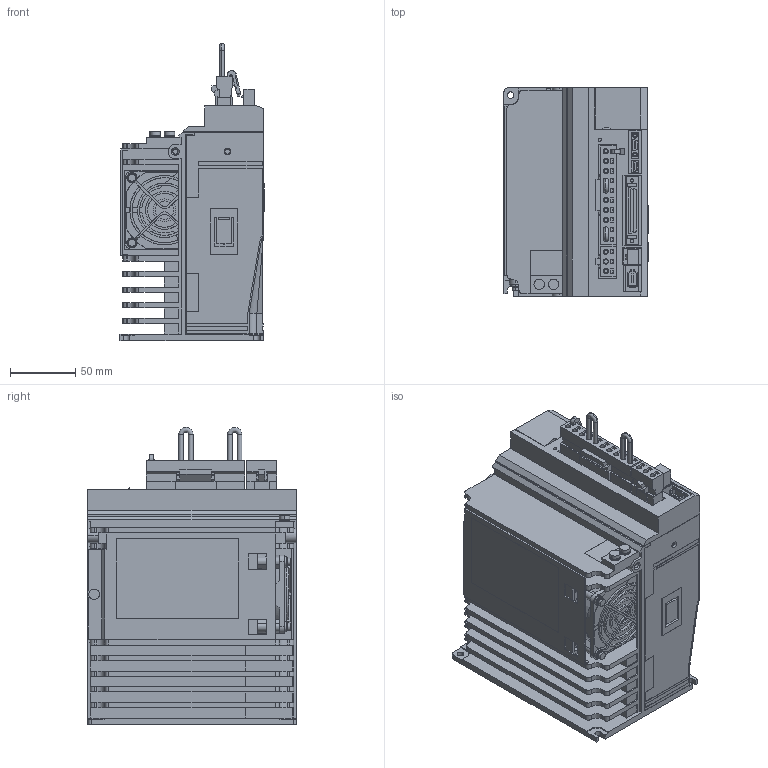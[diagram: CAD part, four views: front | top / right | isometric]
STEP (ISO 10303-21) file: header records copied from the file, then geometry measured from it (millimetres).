
FILE_DESCRIPTION (( 'STEP AP203' ), '1' );
FILE_NAME ('sgdv_1r9d0_a.STEP', '2008-06-17T08:20:55', ( 'T' ), ( 'T' ), 'SwSTEP 2.0', 'SolidWorks 2006052', '' );
FILE_SCHEMA (( 'CONFIG_CONTROL_DESIGN' ));
Products named in the file (10): sgdv_1r9d0_a_cover2; sgdv_1r9d0_a_cable; sgdv_1r9d0_a_connector_1; sgdv_1r9d0_a_base; sgdv_1r9d0_a; sgdv_1r9d0_a_cover; sgdv_1r9d0_a_connector; sgdv_1r9d0_a_connector_2; sgdv_1r9d0_a_pin
Assembly tree (11 placements, depth 3):
  sgdv_1r9d0_a
    sgdv_1r9d0_a_connector_1
    sgdv_1r9d0_a_connector
      sgdv_1r9d0_a_cable  x2
      sgdv_1r9d0_a_connector_2
      sgdv_1r9d0_a_pin
    sgdv_1r9d0_a_connector
    sgdv_1r9d0_a_base
    sgdv_1r9d0_a_cover
    sgdv_1r9d0_a_cover2  x2
Bounding box: 110.5 x 160 x 228 mm (x, y, z)
Volume: 2483793.7 mm3; surface area: 251294.5 mm2
Topology: 10 solids, 10 shells, 2047 faces, 5490 edges, 3619 vertices
Faces by surface type: plane 1661, cylinder 363, cone 16, torus 4, bspline 2, sphere 1
Entity records: 63591 total; most frequent: CARTESIAN_POINT 11144, ORIENTED_EDGE 10820, DIRECTION 10265, EDGE_CURVE 5410, VECTOR 4557, LINE 4557, VERTEX_POINT 3567, AXIS2_PLACEMENT_3D 2854
